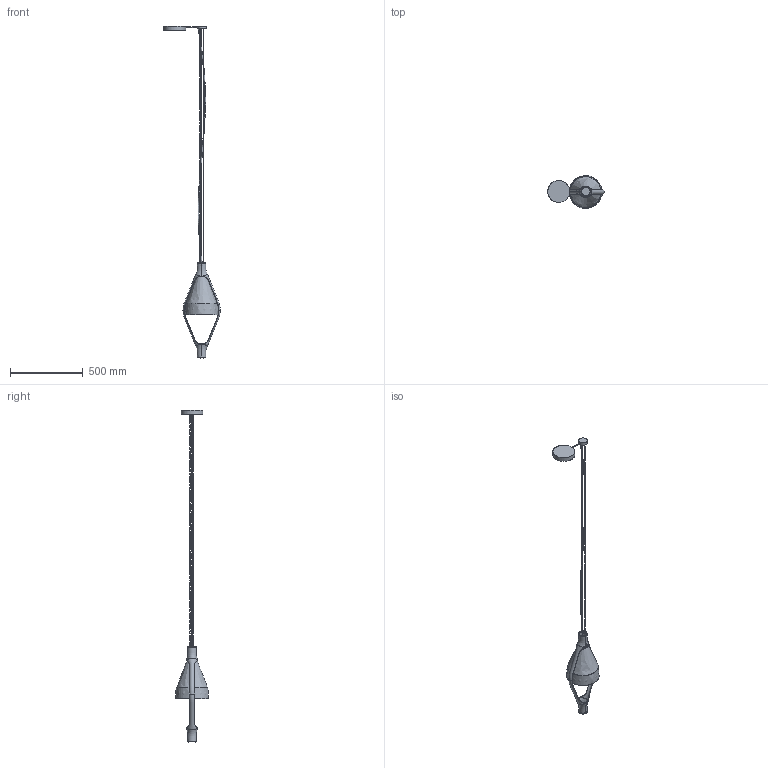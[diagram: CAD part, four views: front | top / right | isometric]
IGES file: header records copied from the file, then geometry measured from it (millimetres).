
Global section: file name: \\10.0.10.244\Ufficio Tecnico\SVILUPPO PRODOTTI\3D per sito 2020\VICEVERSA.igs; native system: Rhinoceros ( Apr  4 2016 ); preprocessor: Trout Lake IGES 012 Apr  4 2016; date: 201006.130839; units: millimetre
Bounding box: 386.94 x 225.41 x 2276.62 mm (x, y, z)
Surface area: 563775.3 mm2 (no closed solid volume)
Topology: 0 solids, 0 shells, 84 faces, 986 edges, 978 vertices
Faces by surface type: bspline 84
